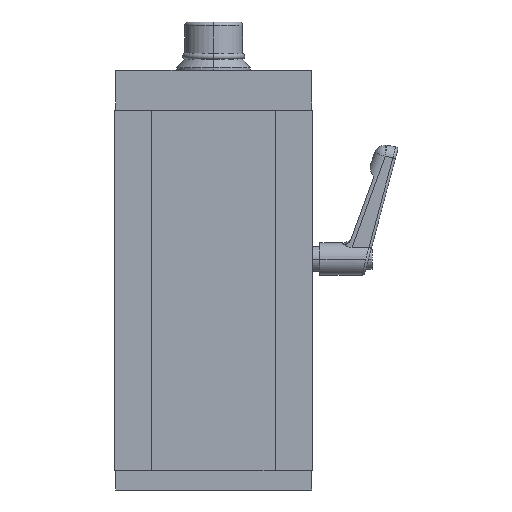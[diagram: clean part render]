
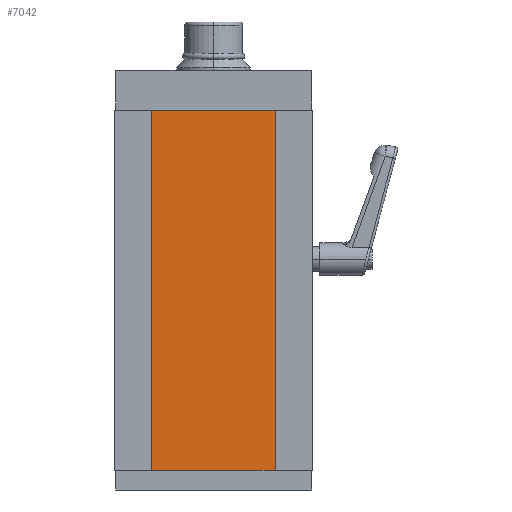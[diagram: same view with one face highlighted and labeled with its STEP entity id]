
A CAD part, front view. The second image highlights one B-rep face of the part: STEP entity #7042.
In plain terms, the highlighted planar face has unit normal (0, -1, 0).
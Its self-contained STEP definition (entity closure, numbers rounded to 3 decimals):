
#2628 = DIRECTION ( 'NONE',  ( 0., 0., -1. ) ) ;
#2629 = VECTOR ( 'NONE', #2628, 1000. ) ;
#2630 = CARTESIAN_POINT ( 'NONE',  ( 26.155, 0., 72.5 ) ) ;
#2631 = LINE ( 'NONE', #2630, #2629 ) ;
#2662 = DIRECTION ( 'NONE',  ( 1., 0., 0. ) ) ;
#2663 = VECTOR ( 'NONE', #2662, 1000. ) ;
#2664 = CARTESIAN_POINT ( 'NONE',  ( -26.155, 0., -72.5 ) ) ;
#2665 = LINE ( 'NONE', #2664, #2663 ) ;
#2786 = FACE_OUTER_BOUND ( 'NONE', #7043, .T. ) ;
#2817 = DIRECTION ( 'NONE',  ( 1., 0., 0. ) ) ;
#2818 = VECTOR ( 'NONE', #2817, 1000. ) ;
#2819 = CARTESIAN_POINT ( 'NONE',  ( -26.155, 0., 72.5 ) ) ;
#2820 = LINE ( 'NONE', #2819, #2818 ) ;
#2864 = CARTESIAN_POINT ( 'NONE',  ( -26.155, 0., 72.5 ) ) ;
#2865 = DIRECTION ( 'NONE',  ( 0., 0., -1. ) ) ;
#2866 = VECTOR ( 'NONE', #2865, 1000. ) ;
#2867 = CARTESIAN_POINT ( 'NONE',  ( -26.155, 0., 72.5 ) ) ;
#2868 = LINE ( 'NONE', #2867, #2866 ) ;
#2916 = CARTESIAN_POINT ( 'NONE',  ( -26.155, 0., -72.5 ) ) ;
#2975 = CARTESIAN_POINT ( 'NONE',  ( 26.155, 0., 72.5 ) ) ;
#2984 = DIRECTION ( 'NONE',  ( 0., 0., 1. ) ) ;
#2985 = DIRECTION ( 'NONE',  ( 0., 1., 0. ) ) ;
#2986 = CARTESIAN_POINT ( 'NONE',  ( -26.155, 0., 72.5 ) ) ;
#2987 = AXIS2_PLACEMENT_3D ( 'NONE', #2986, #2985, #2984 ) ;
#2988 = PLANE ( 'NONE',  #2987 ) ;
#5624 = VERTEX_POINT ( 'NONE', #8969 ) ;
#6958 = EDGE_CURVE ( 'NONE', #7090, #5624, #2631, .T. ) ;
#7000 = EDGE_CURVE ( 'NONE', #7050, #5624, #2665, .T. ) ;
#7042 = ADVANCED_FACE ( 'NONE', ( #2786 ), #2988, .F. ) ;
#7043 = EDGE_LOOP ( 'NONE', ( #7133, #7120, #7121, #7123 ) ) ;
#7050 = VERTEX_POINT ( 'NONE', #2916 ) ;
#7090 = VERTEX_POINT ( 'NONE', #2975 ) ;
#7120 = ORIENTED_EDGE ( 'NONE', *, *, #6958, .F. ) ;
#7121 = ORIENTED_EDGE ( 'NONE', *, *, #7122, .F. ) ;
#7122 = EDGE_CURVE ( 'NONE', #7137, #7090, #2820, .T. ) ;
#7123 = ORIENTED_EDGE ( 'NONE', *, *, #7136, .T. ) ;
#7133 = ORIENTED_EDGE ( 'NONE', *, *, #7000, .T. ) ;
#7136 = EDGE_CURVE ( 'NONE', #7137, #7050, #2868, .T. ) ;
#7137 = VERTEX_POINT ( 'NONE', #2864 ) ;
#8969 = CARTESIAN_POINT ( 'NONE',  ( 26.155, 0., -72.5 ) ) ;
